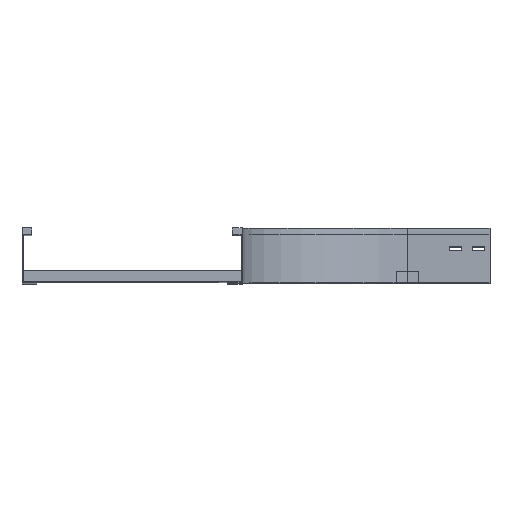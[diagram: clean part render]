
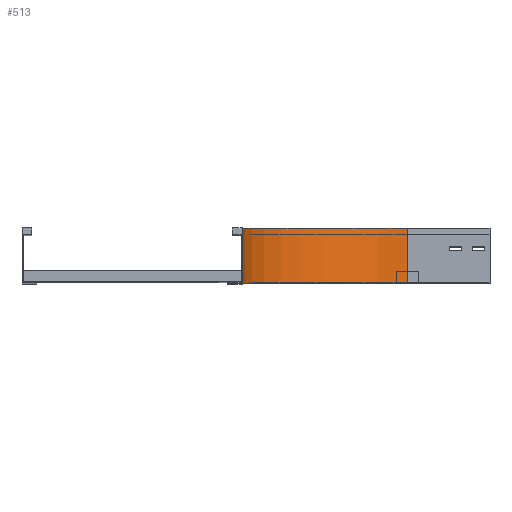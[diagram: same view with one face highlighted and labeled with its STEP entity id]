
A CAD part, top view. The second image highlights one B-rep face of the part: STEP entity #513.
In plain terms, the highlighted cylindrical face has radius 300 mm (diameter 600 mm), a partial arc.
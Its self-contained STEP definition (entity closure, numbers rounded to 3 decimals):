
#73 = LINE ( 'NONE', #1275, #393 ) ;
#107 = DIRECTION ( 'NONE',  ( 0., 0., -1. ) ) ;
#116 = AXIS2_PLACEMENT_3D ( 'NONE', #518, #3464, #473 ) ;
#180 = EDGE_CURVE ( 'NONE', #2355, #3745, #73, .T. ) ;
#191 = VERTEX_POINT ( 'NONE', #396 ) ;
#393 = VECTOR ( 'NONE', #2463, 1000. ) ;
#396 = CARTESIAN_POINT ( 'NONE',  ( 300., 100., -450. ) ) ;
#473 = DIRECTION ( 'NONE',  ( -1., 0., 0. ) ) ;
#491 = VECTOR ( 'NONE', #2804, 1000. ) ;
#513 = ADVANCED_FACE ( 'NONE', ( #1340 ), #3687, .F. ) ;
#518 = CARTESIAN_POINT ( 'NONE',  ( 300., 100., -150. ) ) ;
#736 = DIRECTION ( 'NONE',  ( 0., -1., 0. ) ) ;
#749 = DIRECTION ( 'NONE',  ( 0., -1., 0. ) ) ;
#761 = EDGE_LOOP ( 'NONE', ( #2156, #1766, #3025, #3412 ) ) ;
#998 = EDGE_CURVE ( 'NONE', #2897, #191, #1076, .T. ) ;
#1010 = CARTESIAN_POINT ( 'NONE',  ( 300., 0., -150. ) ) ;
#1076 = LINE ( 'NONE', #2267, #491 ) ;
#1275 = CARTESIAN_POINT ( 'NONE',  ( 0., 0., -150. ) ) ;
#1340 = FACE_OUTER_BOUND ( 'NONE', #761, .T. ) ;
#1527 = AXIS2_PLACEMENT_3D ( 'NONE', #2828, #736, #1650 ) ;
#1599 = AXIS2_PLACEMENT_3D ( 'NONE', #1010, #749, #107 ) ;
#1650 = DIRECTION ( 'NONE',  ( -1., 0., 0. ) ) ;
#1766 = ORIENTED_EDGE ( 'NONE', *, *, #180, .F. ) ;
#2049 = EDGE_CURVE ( 'NONE', #2355, #2897, #3212, .T. ) ;
#2059 = CIRCLE ( 'NONE', #116, 300. ) ;
#2104 = CARTESIAN_POINT ( 'NONE',  ( 0., 0., -150. ) ) ;
#2156 = ORIENTED_EDGE ( 'NONE', *, *, #2187, .F. ) ;
#2187 = EDGE_CURVE ( 'NONE', #3745, #191, #2059, .T. ) ;
#2227 = CARTESIAN_POINT ( 'NONE',  ( 300., 0., -450. ) ) ;
#2267 = CARTESIAN_POINT ( 'NONE',  ( 300., 0., -450. ) ) ;
#2355 = VERTEX_POINT ( 'NONE', #2104 ) ;
#2463 = DIRECTION ( 'NONE',  ( 0., 1., 0. ) ) ;
#2553 = CARTESIAN_POINT ( 'NONE',  ( 0., 100., -150. ) ) ;
#2804 = DIRECTION ( 'NONE',  ( 0., 1., 0. ) ) ;
#2828 = CARTESIAN_POINT ( 'NONE',  ( 300., 0., -150. ) ) ;
#2897 = VERTEX_POINT ( 'NONE', #2227 ) ;
#3025 = ORIENTED_EDGE ( 'NONE', *, *, #2049, .T. ) ;
#3212 = CIRCLE ( 'NONE', #1527, 300. ) ;
#3412 = ORIENTED_EDGE ( 'NONE', *, *, #998, .T. ) ;
#3464 = DIRECTION ( 'NONE',  ( 0., -1., 0. ) ) ;
#3687 = CYLINDRICAL_SURFACE ( 'NONE', #1599, 300. ) ;
#3745 = VERTEX_POINT ( 'NONE', #2553 ) ;
